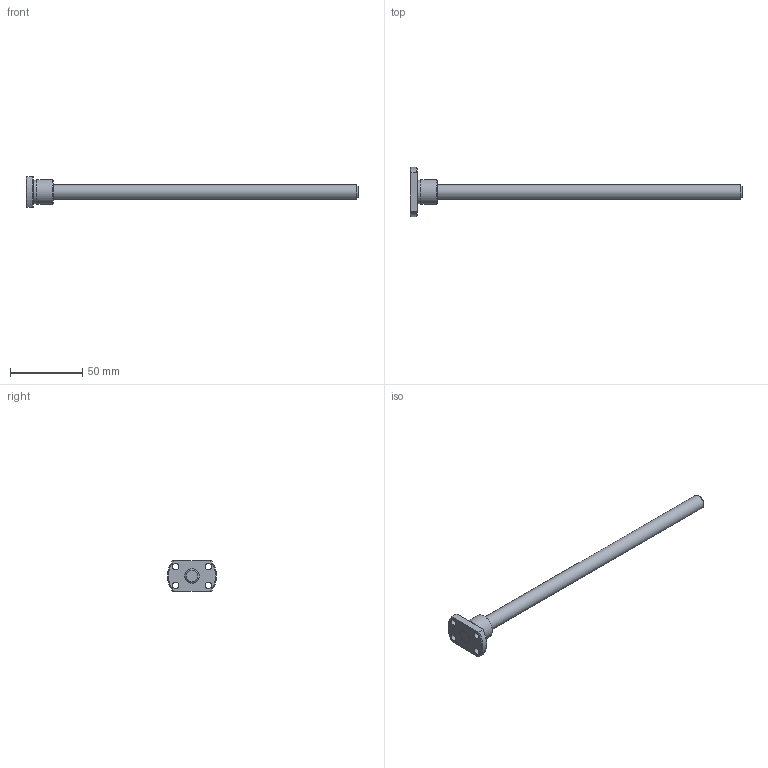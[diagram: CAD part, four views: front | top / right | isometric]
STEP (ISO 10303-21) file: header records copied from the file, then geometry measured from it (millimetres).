
FILE_DESCRIPTION( ( 'STEP AP203' ), '1' );
FILE_NAME( 'e:/temp/worker_91/temp/exporttempdir_4428_1909_PNFBa/format_0/SR1002K-230R230C7(0).stp', '2021-10-19T03:50:30', ( 'License CC BY-ND 4.0' ), ( 'CADENAS' ), ' ', 'PARTsolutions', ' ' );
FILE_SCHEMA( ( 'CONFIG_CONTROL_DESIGN' ) );
Length unit declared in the file: millimetre
Products named in the file (3): SR1002K-230R230C7(0); _SR1002K_shaft; _SR1002K_nut
Assembly tree (2 placements, depth 2):
  SR1002K-230R230C7(0)
    _SR1002K_shaft
    _SR1002K_nut
Bounding box: 230 x 34 x 21 mm (x, y, z)
Volume: 22683.8 mm3; surface area: 10481.5 mm2
Topology: 2 solids, 2 shells, 25 faces, 54 edges, 35 vertices
Faces by surface type: cylinder 10, plane 8, cone 7
Full cylindrical faces by diameter (mm): 4.5 x4, 10 x2, 16.6 x1, 17 x1
Entity records: 772 total; most frequent: CARTESIAN_POINT 130, DIRECTION 118, ORIENTED_EDGE 86, AXIS2_PLACEMENT_3D 55, EDGE_LOOP 48, EDGE_CURVE 43, VERTEX_POINT 35, FACE_OUTER_BOUND 33
